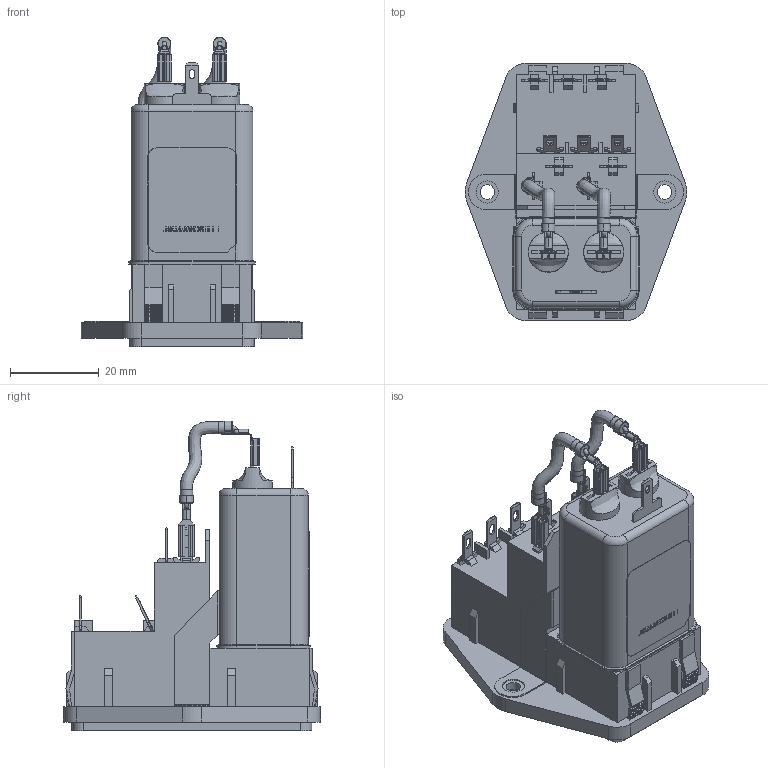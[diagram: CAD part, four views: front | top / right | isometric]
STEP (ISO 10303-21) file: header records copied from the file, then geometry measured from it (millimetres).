
FILE_DESCRIPTION((''),'2;1');
FILE_NAME('D:\_ PRODUCT\New project\3D request\FN379\FN379.stp','2012-10-17T14:19:21',('sayan.penton'),(''),'Autodesk Inventor 2010','Autodesk Inventor 2010','');
FILE_SCHEMA(('AUTOMOTIVE_DESIGN { 1 0 10303 214 1 1 1 1 }'));
Length unit declared in the file: millimetre
Products named in the file (1): Part2
Bounding box: 49.97 x 58 x 69.92 mm (x, y, z)
Volume: 29933.6 mm3; surface area: 27510.3 mm2
Topology: 3 solids, 5 shells, 1456 faces, 4180 edges, 2718 vertices
Faces by surface type: plane 945, cylinder 284, bspline 211, torus 16
Full cylindrical faces by diameter (mm): 1 x4, 1.2 x2, 2.8 x4, 5 x2, 6 x2, 9 x1, 9.1 x2, 12.5 x1
Entity records: 57818 total; most frequent: CARTESIAN_POINT 18628, ORIENTED_EDGE 8256, DIRECTION 7149, EDGE_CURVE 4130, VECTOR 3271, LINE 3271, VERTEX_POINT 2692, AXIS2_PLACEMENT_3D 1939
